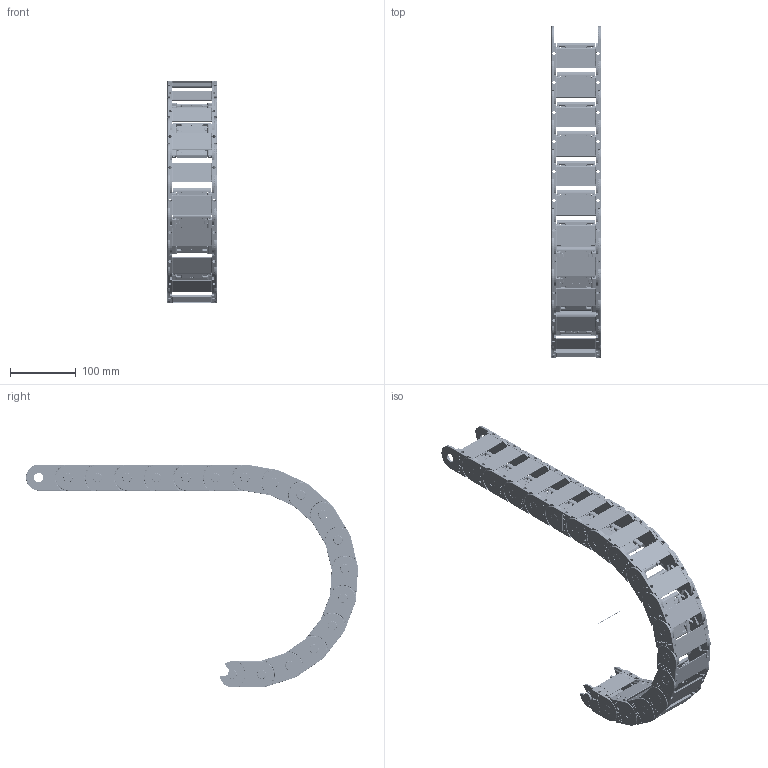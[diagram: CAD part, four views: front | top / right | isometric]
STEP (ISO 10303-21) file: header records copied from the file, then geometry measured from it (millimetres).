
FILE_DESCRIPTION((''),'2;1');
FILE_NAME('C:\Uebbing\PARAMETERKETTEN\KOLIBRI\Kol_40_075_2\Kol_40_075_2_R150.stp','2012-03-05T13:46:53',('Uebbing'),(''),'Autodesk Inventor 10','Autodesk Inventor 10','');
FILE_SCHEMA(('AUTOMOTIVE_DESIGN { 1 0 10303 214 1 1 1 1 }'));
Length unit declared in the file: millimetre
Products named in the file (5): KOLIBRI 40_075_2_PARAMETRISCH; Achse; Kol_40_075_2; Kol_40_075_2_Klappsteg
Assembly tree (21 placements, depth 3):
  KOLIBRI 40_075_2_PARAMETRISCH
    Achse
    Kol_40_075_2  x18
      Kol_40_075_2
      Kol_40_075_2_Klappsteg
Bounding box: 75 x 506.14 x 340 mm (x, y, z)
Volume: 633202.1 mm3; surface area: 432552.9 mm2
Topology: 37 solids, 37 shells, 15303 faces, 40702 edges, 26193 vertices
Faces by surface type: bspline 6390, plane 5834, cylinder 2611, torus 252, sphere 144, cone 72
Full cylindrical faces by diameter (mm): 1 x1, 1.609 x18, 2.825 x18, 3.4 x72, 3.5 x36, 4 x72, 5 x18, 6 x18, 14 x18, 14.1 x18
Entity records: 30574 total; most frequent: CARTESIAN_POINT 10911, ORIENTED_EDGE 4442, DIRECTION 3353, EDGE_CURVE 2221, VERTEX_POINT 1446, VECTOR 1273, LINE 1273, AXIS2_PLACEMENT_3D 1040
